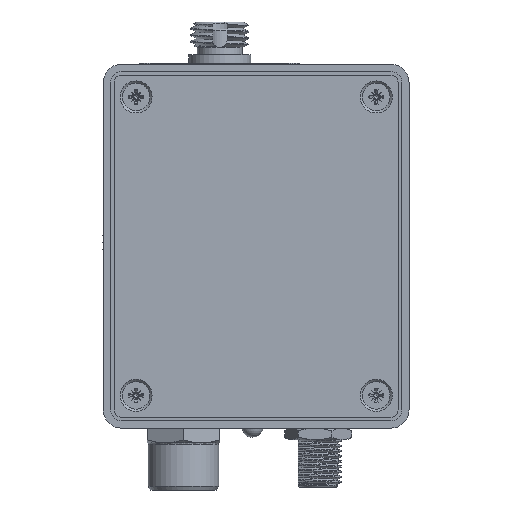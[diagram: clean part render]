
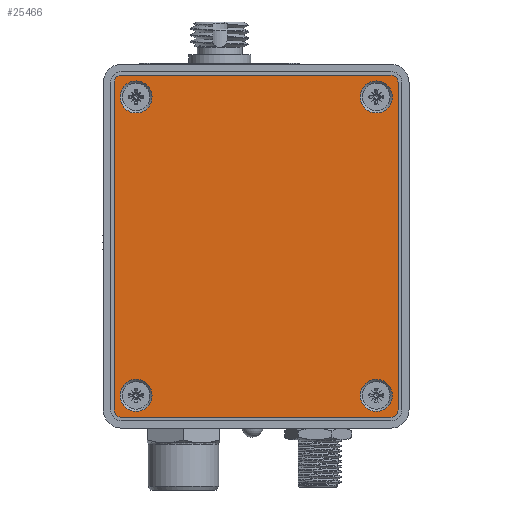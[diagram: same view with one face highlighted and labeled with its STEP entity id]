
A CAD part, left-side view. The second image highlights one B-rep face of the part: STEP entity #25466.
In plain terms, the highlighted planar face has unit normal (-1, 0, 0).
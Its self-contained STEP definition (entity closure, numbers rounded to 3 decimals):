
#517=FACE_BOUND('',#3136,.T.);
#518=FACE_BOUND('',#3137,.T.);
#519=FACE_BOUND('',#3138,.T.);
#520=FACE_BOUND('',#3139,.T.);
#720=PLANE('',#27015);
#1748=FACE_OUTER_BOUND('',#3135,.T.);
#3135=EDGE_LOOP('',(#17289,#17290,#17291,#17292,#17293,#17294,#17295,#17296));
#3136=EDGE_LOOP('',(#17297,#17298));
#3137=EDGE_LOOP('',(#17299,#17300));
#3138=EDGE_LOOP('',(#17301,#17302));
#3139=EDGE_LOOP('',(#17303,#17304));
#5568=CIRCLE('',#26984,2.2);
#5569=CIRCLE('',#26985,2.2);
#5572=CIRCLE('',#26989,2.2);
#5573=CIRCLE('',#26990,2.2);
#5574=CIRCLE('',#26992,2.2);
#5575=CIRCLE('',#26993,2.2);
#5576=CIRCLE('',#26995,2.2);
#5577=CIRCLE('',#26996,2.2);
#5581=CIRCLE('',#27001,1.);
#5583=CIRCLE('',#27005,1.);
#5585=CIRCLE('',#27009,1.);
#5587=CIRCLE('',#27013,1.);
#6096=LINE('',#43375,#8240);
#6100=LINE('',#43387,#8244);
#6104=LINE('',#43399,#8248);
#6108=LINE('',#43409,#8252);
#8240=VECTOR('',#29042,10.);
#8244=VECTOR('',#29054,10.);
#8248=VECTOR('',#29066,10.);
#8252=VECTOR('',#29078,10.);
#10554=VERTEX_POINT('',#43331);
#10555=VERTEX_POINT('',#43332);
#10558=VERTEX_POINT('',#43341);
#10559=VERTEX_POINT('',#43342);
#10560=VERTEX_POINT('',#43347);
#10561=VERTEX_POINT('',#43348);
#10562=VERTEX_POINT('',#43353);
#10563=VERTEX_POINT('',#43354);
#10568=VERTEX_POINT('',#43366);
#10569=VERTEX_POINT('',#43368);
#10571=VERTEX_POINT('',#43374);
#10573=VERTEX_POINT('',#43380);
#10575=VERTEX_POINT('',#43386);
#10577=VERTEX_POINT('',#43392);
#10579=VERTEX_POINT('',#43398);
#10581=VERTEX_POINT('',#43404);
#13152=EDGE_CURVE('',#10554,#10555,#5568,.T.);
#13153=EDGE_CURVE('',#10555,#10554,#5569,.T.);
#13157=EDGE_CURVE('',#10558,#10559,#5572,.T.);
#13158=EDGE_CURVE('',#10559,#10558,#5573,.T.);
#13160=EDGE_CURVE('',#10560,#10561,#5574,.T.);
#13161=EDGE_CURVE('',#10561,#10560,#5575,.T.);
#13163=EDGE_CURVE('',#10562,#10563,#5576,.T.);
#13164=EDGE_CURVE('',#10563,#10562,#5577,.T.);
#13170=EDGE_CURVE('',#10569,#10568,#5581,.T.);
#13173=EDGE_CURVE('',#10571,#10569,#6096,.T.);
#13176=EDGE_CURVE('',#10573,#10571,#5583,.T.);
#13179=EDGE_CURVE('',#10575,#10573,#6100,.T.);
#13182=EDGE_CURVE('',#10577,#10575,#5585,.T.);
#13185=EDGE_CURVE('',#10579,#10577,#6104,.T.);
#13188=EDGE_CURVE('',#10581,#10579,#5587,.T.);
#13191=EDGE_CURVE('',#10568,#10581,#6108,.T.);
#17289=ORIENTED_EDGE('',*,*,#13191,.T.);
#17290=ORIENTED_EDGE('',*,*,#13188,.T.);
#17291=ORIENTED_EDGE('',*,*,#13185,.T.);
#17292=ORIENTED_EDGE('',*,*,#13182,.T.);
#17293=ORIENTED_EDGE('',*,*,#13179,.T.);
#17294=ORIENTED_EDGE('',*,*,#13176,.T.);
#17295=ORIENTED_EDGE('',*,*,#13173,.T.);
#17296=ORIENTED_EDGE('',*,*,#13170,.T.);
#17297=ORIENTED_EDGE('',*,*,#13152,.T.);
#17298=ORIENTED_EDGE('',*,*,#13153,.T.);
#17299=ORIENTED_EDGE('',*,*,#13157,.T.);
#17300=ORIENTED_EDGE('',*,*,#13158,.T.);
#17301=ORIENTED_EDGE('',*,*,#13160,.T.);
#17302=ORIENTED_EDGE('',*,*,#13161,.T.);
#17303=ORIENTED_EDGE('',*,*,#13163,.T.);
#17304=ORIENTED_EDGE('',*,*,#13164,.T.);
#25466=ADVANCED_FACE('',(#1748,#517,#518,#519,#520),#720,.F.);
#26984=AXIS2_PLACEMENT_3D('',#43333,#28997,#28998);
#26985=AXIS2_PLACEMENT_3D('',#43334,#28999,#29000);
#26989=AXIS2_PLACEMENT_3D('',#43343,#29008,#29009);
#26990=AXIS2_PLACEMENT_3D('',#43344,#29010,#29011);
#26992=AXIS2_PLACEMENT_3D('',#43349,#29015,#29016);
#26993=AXIS2_PLACEMENT_3D('',#43350,#29017,#29018);
#26995=AXIS2_PLACEMENT_3D('',#43355,#29022,#29023);
#26996=AXIS2_PLACEMENT_3D('',#43356,#29024,#29025);
#27001=AXIS2_PLACEMENT_3D('',#43369,#29036,#29037);
#27005=AXIS2_PLACEMENT_3D('',#43381,#29048,#29049);
#27009=AXIS2_PLACEMENT_3D('',#43393,#29060,#29061);
#27013=AXIS2_PLACEMENT_3D('',#43405,#29072,#29073);
#27015=AXIS2_PLACEMENT_3D('',#43410,#29079,#29080);
#28997=DIRECTION('center_axis',(1.,0.,0.));
#28998=DIRECTION('ref_axis',(0.,0.,
-1.));
#28999=DIRECTION('center_axis',(1.,0.,0.));
#29000=DIRECTION('ref_axis',(0.,0.,
-1.));
#29008=DIRECTION('center_axis',(1.,0.,0.));
#29009=DIRECTION('ref_axis',(0.,0.,
-1.));
#29010=DIRECTION('center_axis',(1.,0.,0.));
#29011=DIRECTION('ref_axis',(0.,0.,
-1.));
#29015=DIRECTION('center_axis',(1.,0.,0.));
#29016=DIRECTION('ref_axis',(0.,0.,
-1.));
#29017=DIRECTION('center_axis',(1.,0.,0.));
#29018=DIRECTION('ref_axis',(0.,0.,
-1.));
#29022=DIRECTION('center_axis',(1.,0.,0.));
#29023=DIRECTION('ref_axis',(0.,0.,
-1.));
#29024=DIRECTION('center_axis',(1.,0.,0.));
#29025=DIRECTION('ref_axis',(0.,0.,
-1.));
#29036=DIRECTION('center_axis',(-1.,0.,0.));
#29037=DIRECTION('ref_axis',(0.,1.,0.));
#29042=DIRECTION('',(0.,0.,1.));
#29048=DIRECTION('center_axis',(-1.,0.,0.));
#29049=DIRECTION('ref_axis',(0.,0.,
1.));
#29054=DIRECTION('',(0.,-1.,0.));
#29060=DIRECTION('center_axis',(-1.,0.,0.));
#29061=DIRECTION('ref_axis',(0.,-1.,0.));
#29066=DIRECTION('',(0.,0.,-1.));
#29072=DIRECTION('center_axis',(-1.,0.,0.));
#29073=DIRECTION('ref_axis',(0.,0.,
-1.));
#29078=DIRECTION('',(0.,1.,0.));
#29079=DIRECTION('center_axis',(1.,0.,0.));
#29080=DIRECTION('ref_axis',(0.,-1.,0.));
#43331=CARTESIAN_POINT('',(0.,37.5,-6.7));
#43332=CARTESIAN_POINT('',(0.,37.5,-2.3));
#43333=CARTESIAN_POINT('Origin',(0.,37.5,
-4.5));
#43334=CARTESIAN_POINT('Origin',(0.,37.5,
-4.5));
#43341=CARTESIAN_POINT('',(0.,37.5,-47.7));
#43342=CARTESIAN_POINT('',(0.,37.5,-43.3));
#43343=CARTESIAN_POINT('Origin',(0.,37.5,
-45.5));
#43344=CARTESIAN_POINT('Origin',(0.,37.5,
-45.5));
#43347=CARTESIAN_POINT('',(0.,4.5,-6.7));
#43348=CARTESIAN_POINT('',(0.,4.5,-2.3));
#43349=CARTESIAN_POINT('Origin',(0.,4.5,
-4.5));
#43350=CARTESIAN_POINT('Origin',(0.,4.5,
-4.5));
#43353=CARTESIAN_POINT('',(0.,4.5,-47.7));
#43354=CARTESIAN_POINT('',(0.,4.5,-43.3));
#43355=CARTESIAN_POINT('Origin',(0.,4.5,-45.5));
#43356=CARTESIAN_POINT('Origin',(0.,4.5,-45.5));
#43366=CARTESIAN_POINT('',(0.,2.5,-1.5));
#43368=CARTESIAN_POINT('',(0.,1.5,-2.5));
#43369=CARTESIAN_POINT('Origin',(0.,2.5,
-2.5));
#43374=CARTESIAN_POINT('',(0.,1.5,-47.5));
#43375=CARTESIAN_POINT('',(0.,1.5,-2.5));
#43380=CARTESIAN_POINT('',(0.,2.5,-48.5));
#43381=CARTESIAN_POINT('Origin',(0.,2.5,
-47.5));
#43386=CARTESIAN_POINT('',(0.,39.5,-48.5));
#43387=CARTESIAN_POINT('',(0.,2.5,-48.5));
#43392=CARTESIAN_POINT('',(0.,40.5,-47.5));
#43393=CARTESIAN_POINT('Origin',(0.,39.5,
-47.5));
#43398=CARTESIAN_POINT('',(0.,40.5,-2.5));
#43399=CARTESIAN_POINT('',(0.,40.5,-47.5));
#43404=CARTESIAN_POINT('',(0.,39.5,-1.5));
#43405=CARTESIAN_POINT('Origin',(0.,39.5,
-2.5));
#43409=CARTESIAN_POINT('',(0.,39.5,-1.5));
#43410=CARTESIAN_POINT('Origin',(0.,21.,
-25.));
